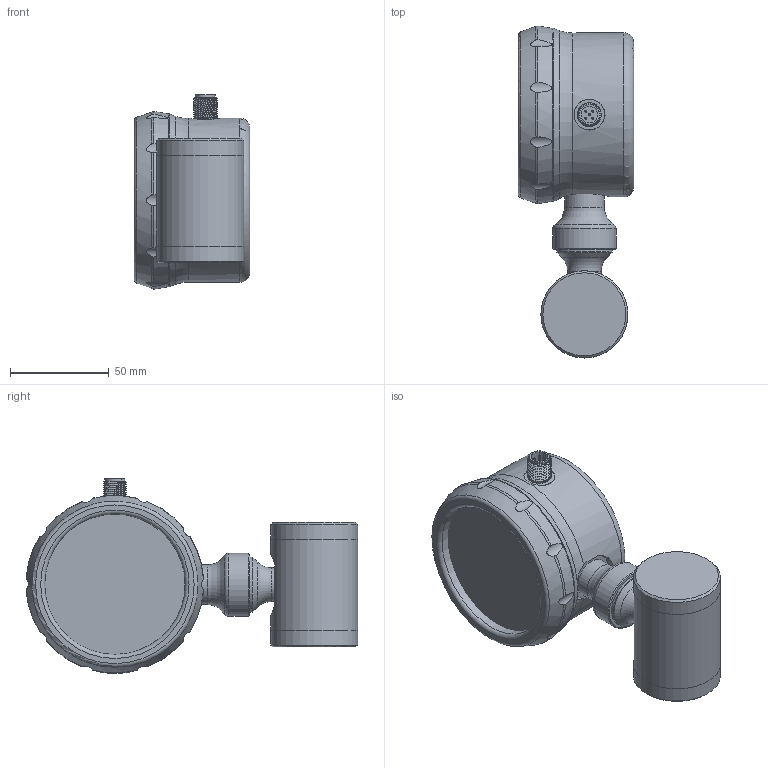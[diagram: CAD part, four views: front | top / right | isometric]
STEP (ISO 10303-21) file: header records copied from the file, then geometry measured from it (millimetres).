
FILE_DESCRIPTION( (''), '2;1');
FILE_NAME( 'QMKD_DN4_H25.4_tie-rod.step', '2024-08-30T09:30:09+08:00', (''), (''), '', '', '');
FILE_SCHEMA (('AUTOMOTIVE_DESIGN { 1 0 10303 214 3 1 1 1 }'));
Length unit declared in the file: millimetre
Products named in the file (1): QMKD DN4_H25.4_tie-rod
Bounding box: 58.5 x 167.81 x 98.4 mm (x, y, z)
Volume: 443685.3 mm3; surface area: 76380.8 mm2
Topology: 9 solids, 9 shells, 176 faces, 414 edges, 264 vertices
Faces by surface type: cylinder 72, plane 37, sphere 20, torus 18, cone 17, bspline 12
Full cylindrical faces by diameter (mm): 11.6 x2, 15 x2, 15.5 x1, 17 x1, 18 x2, 20 x1, 26 x1, 28 x1, 32 x1, 38 x2, 44 x3, 71 x1, 80 x2, 83 x1
Entity records: 7505 total; most frequent: CARTESIAN_POINT 3816, DIRECTION 719, ORIENTED_EDGE 672, EDGE_CURVE 336, AXIS2_PLACEMENT_3D 335, VERTEX_POINT 243, EDGE_LOOP 241, ADVANCED_FACE 175
